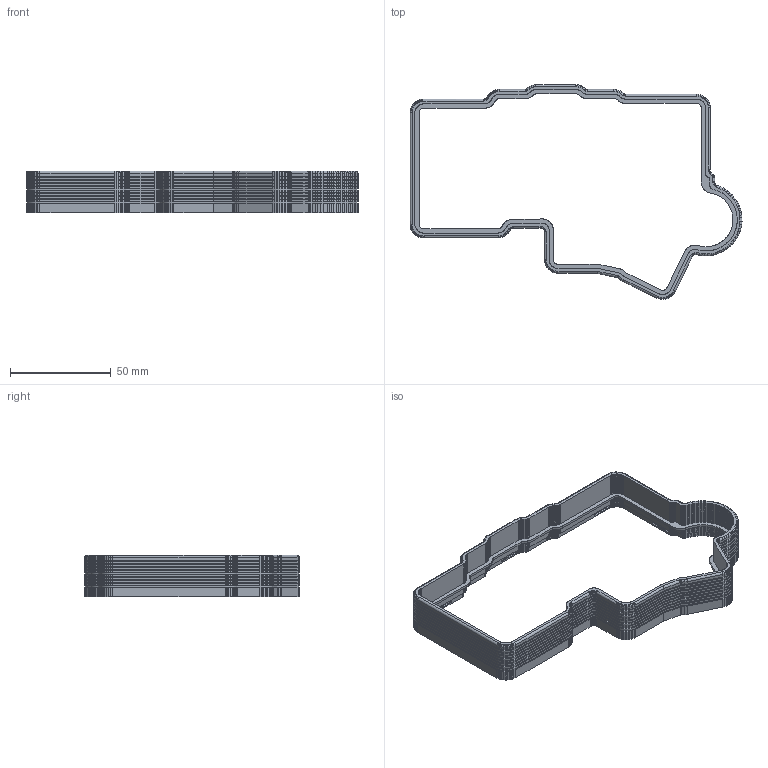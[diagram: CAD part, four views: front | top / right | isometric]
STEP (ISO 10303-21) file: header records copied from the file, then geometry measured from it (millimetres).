
FILE_DESCRIPTION(('Open CASCADE Model'),'2;1');
FILE_NAME('Open CASCADE Shape Model','2026-10-14T03:51:45',('Author'),( 'Open CASCADE'),'Open CASCADE STEP processor 8.0','Open CASCADE 8.0' ,'Unknown');
FILE_SCHEMA(('AUTOMOTIVE_DESIGN { 1 0 10303 214 1 1 1 1 }'));
Products named in the file (1): Open CASCADE STEP translator 8.0 4
Bounding box: 164.81 x 106.57 x 20.85 mm (x, y, z)
Volume: 22598.6 mm3; surface area: 27982.7 mm2
Topology: 1 solids, 1 shells, 5864 faces, 17315 edges, 11479 vertices
Faces by surface type: plane 5671, cylinder 193
Entity records: 412764 total; most frequent: CARTESIAN_POINT 75596, DIRECTION 58878, LINE 46762, VECTOR 46762, ORIENTED_EDGE 34630, PCURVE 34630, DEFINITIONAL_REPRESENTATION 34630, EDGE_CURVE 17315
